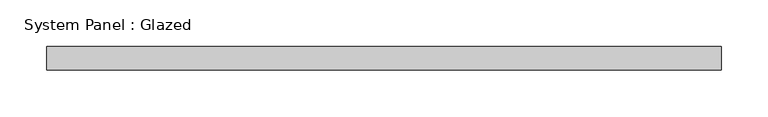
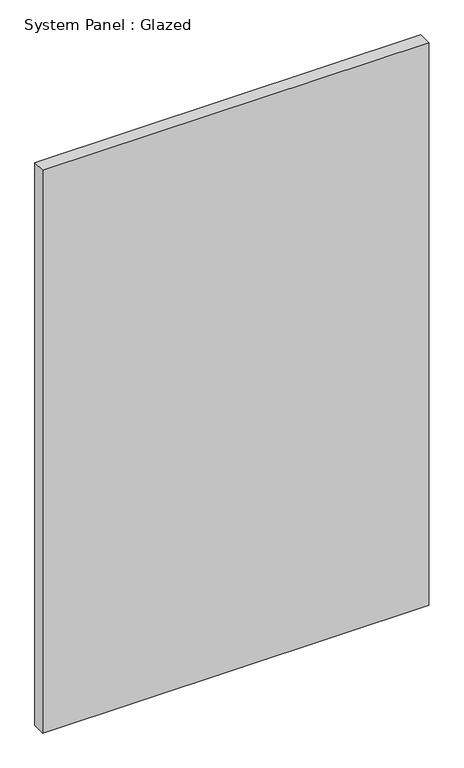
"""IFC4 building model written with IfcOpenShell, lengths in millimetres: plate geometry, System Panel : Glazed."""

from ifc_helpers import new_model, si_unit, origin, origin_with_axes, place, context, project, spatial, polyline, outline, extrude, source, transform, mapped, element, save


def system_panel_glazed_bc678703(model_context):
    return source(origin(), model_context, "Body", "SweptSolid", [
        extrude(outline(polyline([(360.75, 24.5), (-360.75, 24.5), (-360.75, 49.5), (360.75, 49.5), (360.75, 24.5)])), origin_with_axes(), (0.0, 0.0, 1.0), 1112.0),
    ])


if __name__ == "__main__":
    model = new_model("IFC4")
    model_context = context("Model", 3, world=origin())
    ifc_project = project(units=[si_unit("LENGTHUNIT", "METRE", prefix="MILLI")], contexts=[model_context])
    site = spatial("IfcSite", under=ifc_project)
    building = spatial("IfcBuilding", under=site)
    placement = place(None, origin())
    system_panel_glazed_shape = system_panel_glazed_bc678703(model_context)
    element("IfcPlate", 1, ObjectType="System Panel : Glazed", at=placement, inside=building, context=model_context, shape_type="MappedRepresentation", body=[
        mapped(system_panel_glazed_shape, transform((0.0, 0.0, 0.0), x_axis=(1.0, 0.0, 0.0), y_axis=(0.0, 1.0, 0.0), z_axis=(0.0, 0.0, 1.0))),
    ])
    save(model, "model.ifc")
